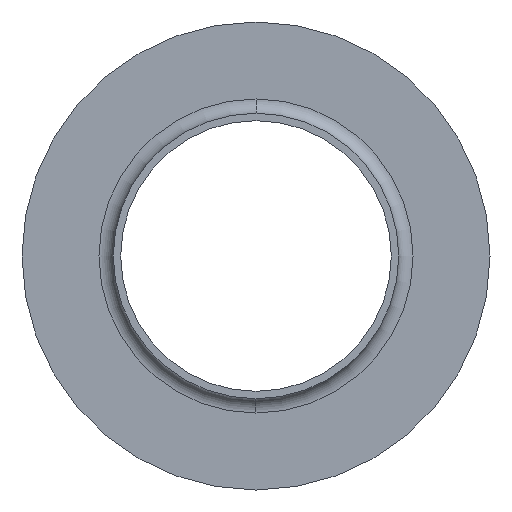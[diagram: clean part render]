
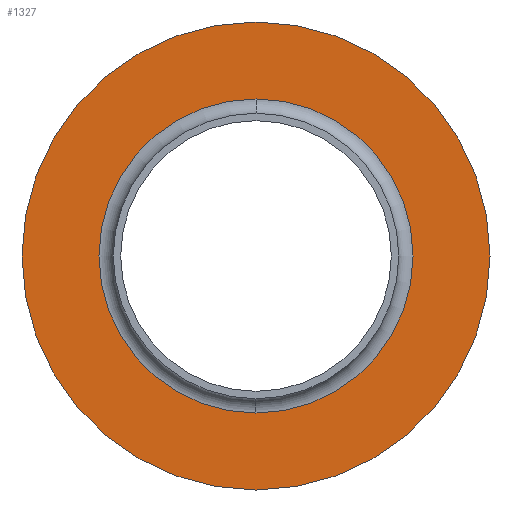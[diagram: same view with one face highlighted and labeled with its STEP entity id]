
A CAD part, front view. The second image highlights one B-rep face of the part: STEP entity #1327.
In plain terms, the highlighted planar face has unit normal (0, -1, 0).
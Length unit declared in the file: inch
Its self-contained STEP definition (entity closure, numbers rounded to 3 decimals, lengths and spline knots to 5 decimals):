
#58 = CARTESIAN_POINT ( 'NONE',  ( 0., -0.02779, 0. ) ) ;
#77 = CIRCLE ( 'NONE', #2743, 2.049 ) ;
#168 = DIRECTION ( 'NONE',  ( 0., 0., -1. ) ) ;
#169 = ORIENTED_EDGE ( 'NONE', *, *, #1287, .T. ) ;
#201 = PLANE ( 'NONE',  #994 ) ;
#223 = DIRECTION ( 'NONE',  ( 0., 0., 1. ) ) ;
#233 = CARTESIAN_POINT ( 'NONE',  ( 0., -0.02779, -2.049 ) ) ;
#302 = CIRCLE ( 'NONE', #2758, 2.049 ) ;
#311 = DIRECTION ( 'NONE',  ( 0., -1., 0. ) ) ;
#330 = DIRECTION ( 'NONE',  ( 0., 0., -1. ) ) ;
#348 = CARTESIAN_POINT ( 'NONE',  ( 0., -0.02779, 0. ) ) ;
#366 = VERTEX_POINT ( 'NONE', #2838 ) ;
#423 = EDGE_CURVE ( 'NONE', #3094, #366, #949, .T. ) ;
#510 = CARTESIAN_POINT ( 'NONE',  ( -2.049, -0.02779, 0. ) ) ;
#513 = EDGE_LOOP ( 'NONE', ( #169, #1547 ) ) ;
#548 = FACE_BOUND ( 'NONE', #764, .T. ) ;
#639 = ORIENTED_EDGE ( 'NONE', *, *, #2597, .F. ) ;
#764 = EDGE_LOOP ( 'NONE', ( #639, #3056 ) ) ;
#766 = VERTEX_POINT ( 'NONE', #233 ) ;
#769 = CARTESIAN_POINT ( 'NONE',  ( 0., -0.02779, 0. ) ) ;
#949 = CIRCLE ( 'NONE', #2134, 1.375 ) ;
#994 = AXIS2_PLACEMENT_3D ( 'NONE', #510, #1672, #223 ) ;
#1003 = DIRECTION ( 'NONE',  ( 0., 0., -1. ) ) ;
#1162 = FACE_OUTER_BOUND ( 'NONE', #513, .T. ) ;
#1287 = EDGE_CURVE ( 'NONE', #766, #2375, #302, .T. ) ;
#1327 = ADVANCED_FACE ( 'NONE', ( #548, #1162 ), #201, .F. ) ;
#1547 = ORIENTED_EDGE ( 'NONE', *, *, #2537, .T. ) ;
#1672 = DIRECTION ( 'NONE',  ( 0., 1., 0. ) ) ;
#1746 = DIRECTION ( 'NONE',  ( 0., -1., 0. ) ) ;
#2134 = AXIS2_PLACEMENT_3D ( 'NONE', #2832, #2789, #2778 ) ;
#2172 = AXIS2_PLACEMENT_3D ( 'NONE', #58, #1746, #330 ) ;
#2359 = CIRCLE ( 'NONE', #2172, 1.375 ) ;
#2375 = VERTEX_POINT ( 'NONE', #2855 ) ;
#2384 = CARTESIAN_POINT ( 'NONE',  ( 0., -0.02779, 1.375 ) ) ;
#2462 = DIRECTION ( 'NONE',  ( 0., -1., 0. ) ) ;
#2537 = EDGE_CURVE ( 'NONE', #2375, #766, #77, .T. ) ;
#2597 = EDGE_CURVE ( 'NONE', #366, #3094, #2359, .T. ) ;
#2743 = AXIS2_PLACEMENT_3D ( 'NONE', #769, #2462, #1003 ) ;
#2758 = AXIS2_PLACEMENT_3D ( 'NONE', #348, #311, #168 ) ;
#2778 = DIRECTION ( 'NONE',  ( 0., 0., -1. ) ) ;
#2789 = DIRECTION ( 'NONE',  ( 0., -1., 0. ) ) ;
#2832 = CARTESIAN_POINT ( 'NONE',  ( 0., -0.02779, 0. ) ) ;
#2838 = CARTESIAN_POINT ( 'NONE',  ( 0., -0.02779, -1.375 ) ) ;
#2855 = CARTESIAN_POINT ( 'NONE',  ( 0., -0.02779, 2.049 ) ) ;
#3056 = ORIENTED_EDGE ( 'NONE', *, *, #423, .F. ) ;
#3094 = VERTEX_POINT ( 'NONE', #2384 ) ;
